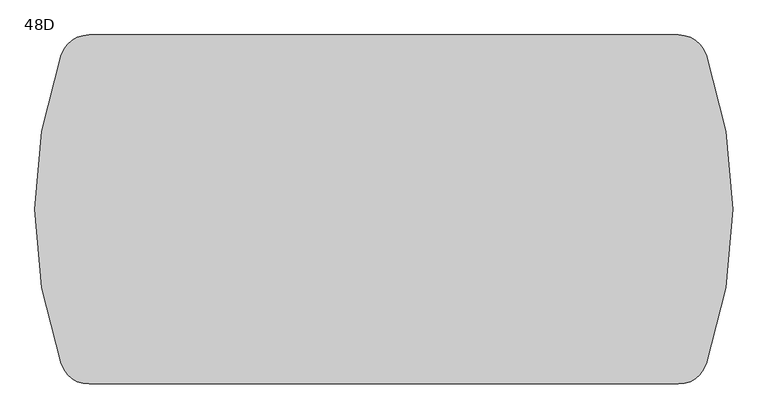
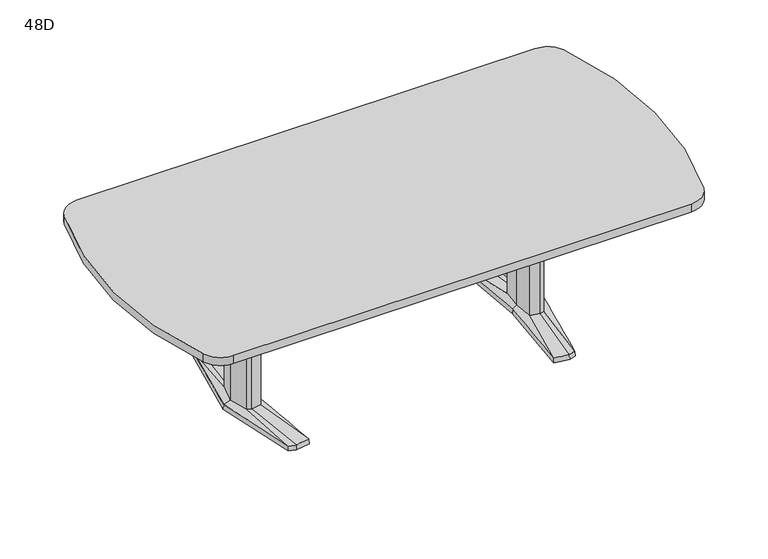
"""IFC4 building model written with IfcOpenShell, lengths in millimetres: furniture geometry, Coalesse_AM_Table_Conference_ETable2_SoftRadiused_96in_AluminiumBase : 48D."""

from ifc_helpers import new_model, si_unit, point, frame, frame_2d, origin, place, context, project, spatial, polyline, circle_curve, trimmed, segment, composite_curve, outline, extrude, source, transform, mapped, element, save
from ifc_brep_helpers import plane_surface, spline_surface, advanced_brep


def furniture_48d_1f168789(model_context):
    return source(origin(), model_context, "Body", "SolidModel", [
        advanced_brep(
        [(614.8503471, -379.3768856, 25.4), (644.5756636, -371.5332654, 25.4), (668.2327243, -89.293702, 36.5125), (648.9795254, -94.605478, 36.5125), (606.0521001, -87.0529327, 36.5125), (551.7612538, -368.5071562, 25.4), (597.9364207, 0.0, 36.5125), (579.8389754, 0.3970149, 25.4), (606.0521001, 87.0529327, 36.5125), (551.7615002, 368.5172593, 25.4), (648.9795254, 94.605478, 36.5125), (614.8502233, 379.3769183, 25.4), (668.2327243, 89.293702, 36.5125), (644.7535458, 371.4863276, 25.4), (692.1595251, 0.0, 36.5125), (721.4851663, 0.0003516, 25.4), (578.2468742, 0.3968871, 3.175), (550.06875, 369.8367279, 3.175), (614.9213004, 381.0, 3.175), (646.1093245, 372.7704151, 3.175), (723.10625, 0.0, 3.175), (645.9309817, -372.8174744, 3.175), (614.9213004, -381.0, 3.175), (550.06875, -369.8264415, 3.175), (649.5979264, 107.6121478, 3.175), (594.3065451, 97.8843184, 3.175), (585.1810887, 0.0, 3.175), (594.3065451, -97.8843184, 3.175), (649.5979264, -107.6121478, 3.175), (678.6183473, -99.6056872, 3.175), (705.3083085, 0.0, 3.175), (678.6183473, 99.6056872, 3.175), (613.4286812, 346.9152841, 3.175), (557.7811371, 337.3364985, 3.175), (560.1889918, 324.8641942, 3.175), (612.8600644, 333.9306305, 3.175), (648.6725609, 324.4807859, 3.175), (647.5544526, 337.9105158, 3.175), (613.4286812, -346.9152841, 3.175), (647.5544526, -337.9105158, 3.175), (648.6725609, -324.4807859, 3.175), (612.8600644, -333.9306305, 3.175), (560.1889918, -324.8641942, 3.175), (557.7811371, -337.3364985, 3.175), (649.5979264, 107.6121478, 0.0), (678.6183473, 99.6056872, 0.0), (705.3083085, 0.0, 0.0), (678.6183473, -99.6056872, 0.0), (649.5979264, -107.6121478, 0.0), (594.3065451, -97.8843184, 0.0), (585.1810887, 0.0, 0.0), (594.3065451, 97.8843184, 0.0), (613.4286812, 346.9152841, 0.0), (647.5544526, 337.9105158, 0.0), (648.6725609, 324.4807859, 0.0), (612.8600644, 333.9306305, 0.0), (560.1889918, 324.8641942, 0.0), (557.7811371, 337.3364985, 0.0), (613.4286812, -346.9152841, 0.0), (557.7811371, -337.3364985, 0.0), (560.1889918, -324.8641942, 0.0), (612.8600644, -333.9306305, 0.0), (648.6725609, -324.4807859, 0.0), (647.5544526, -337.9105158, 0.0), (668.2327243, 89.293702, 698.5), (648.9795254, 94.605478, 698.5), (606.0521001, 87.0529327, 698.5), (597.9364207, 0.0, 698.5), (606.0521001, -87.0529327, 698.5), (648.9795254, -94.605478, 698.5), (668.2327243, -89.293702, 698.5), (692.1595251, 0.0, 698.5)],
        [
            (0, 1),
            (1, 2),
            (2, 3),
            (3, 0),
            (3, 4),
            (4, 5),
            (5, 0),
            (4, 6),
            (6, 7),
            (7, 5),
            (6, 8),
            (8, 9),
            (9, 7),
            (8, 10),
            (10, 11),
            (11, 9),
            (10, 12),
            (12, 13),
            (13, 11),
            (12, 14),
            (14, 15),
            (15, 13),
            (1, 15),
            (14, 2),
            (16, 17),
            (17, 18),
            (18, 19),
            (19, 20),
            (20, 21),
            (21, 22),
            (22, 23),
            (23, 16),
            (24, 25),
            (25, 26),
            (26, 27),
            (27, 28),
            (28, 29),
            (29, 30),
            (30, 31),
            (31, 24),
            (32, 33),
            (33, 34),
            (34, 35),
            (35, 36),
            (36, 37),
            (37, 32),
            (38, 39),
            (39, 40),
            (40, 41),
            (41, 42),
            (42, 43),
            (43, 38),
            (16, 7),
            (9, 17),
            (11, 18),
            (13, 19),
            (15, 20),
            (1, 21),
            (0, 22),
            (5, 23),
            (44, 45),
            (45, 46),
            (46, 47),
            (47, 48),
            (48, 49),
            (49, 50),
            (50, 51),
            (51, 44),
            (52, 53),
            (53, 54),
            (54, 55),
            (55, 56),
            (56, 57),
            (57, 52),
            (58, 59),
            (59, 60),
            (60, 61),
            (61, 62),
            (62, 63),
            (63, 58),
            (44, 24),
            (31, 45),
            (30, 46),
            (29, 47),
            (28, 48),
            (27, 49),
            (26, 50),
            (25, 51),
            (52, 32),
            (37, 53),
            (36, 54),
            (35, 55),
            (34, 56),
            (33, 57),
            (58, 38),
            (43, 59),
            (42, 60),
            (41, 61),
            (40, 62),
            (39, 63),
            (64, 65),
            (65, 66),
            (66, 67),
            (67, 68),
            (68, 69),
            (69, 70),
            (70, 71),
            (71, 64),
            (71, 14),
            (12, 64),
            (70, 2),
            (69, 3),
            (68, 4),
            (67, 6),
            (66, 8),
            (65, 10),
        ],
        [
            spline_surface(1, 1, [[(644.5756636, -371.5332654, 25.4), (614.8503471, -379.3768856, 25.4)], [(668.2327243, -89.293702, 36.5125), (648.9795254, -94.605478, 36.5125)]], [2, 2], [2, 2], [0.0, 1.0], [0.0, 1.0]),
            spline_surface(1, 1, [[(614.8503471, -379.3768856, 25.4), (551.7612538, -368.5071562, 25.4)], [(648.9795254, -94.605478, 36.5125), (606.0521001, -87.0529327, 36.5125)]], [2, 2], [2, 2], [0.0, 1.0], [0.0, 1.0]),
            spline_surface(1, 1, [[(551.7612538, -368.5071562, 25.4), (579.8389754, 0.3970149, 25.4)], [(606.0521001, -87.0529327, 36.5125), (597.9364207, 0.0, 36.5125)]], [2, 2], [2, 2], [0.0, 1.0], [0.0, 1.0]),
            spline_surface(1, 1, [[(579.8389754, 0.3970149, 25.4), (551.7615002, 368.5172593, 25.4)], [(597.9364207, 0.0, 36.5125), (606.0521001, 87.0529327, 36.5125)]], [2, 2], [2, 2], [0.0, 1.0], [0.0, 1.0]),
            spline_surface(1, 1, [[(551.7615002, 368.5172593, 25.4), (614.8502233, 379.3769183, 25.4)], [(606.0521001, 87.0529327, 36.5125), (648.9795254, 94.605478, 36.5125)]], [2, 2], [2, 2], [0.0, 1.0], [0.0, 1.0]),
            spline_surface(1, 1, [[(614.8502233, 379.3769183, 25.4), (644.7535458, 371.4863276, 25.4)], [(648.9795254, 94.605478, 36.5125), (668.2327243, 89.293702, 36.5125)]], [2, 2], [2, 2], [0.0, 1.0], [0.0, 1.0]),
            spline_surface(1, 1, [[(644.7535458, 371.4863276, 25.4), (721.4851663, 0.0003516, 25.4)], [(668.2327243, 89.293702, 36.5125), (692.1595251, 0.0, 36.5125)]], [2, 2], [2, 2], [0.0, 1.0], [0.0, 1.0]),
            spline_surface(1, 1, [[(721.4851663, 0.0003516, 25.4), (644.5756636, -371.5332654, 25.4)], [(692.1595251, 0.0, 36.5125), (668.2327243, -89.293702, 36.5125)]], [2, 2], [2, 2], [0.0, 1.0], [0.0, 1.0]),
            plane_surface(frame((615.4216914, 0.0450143, 3.175), z_axis=(0.0, 0.0, -1.0), x_axis=(-0.9669048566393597, -0.2551372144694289, 0.0))),
            plane_surface(frame((564.1578121, 185.1168075, 3.175), z_axis=(-0.9945699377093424, -0.07585840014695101, 0.0712470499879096), x_axis=(-0.07605167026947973, 0.9971038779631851, 0.0))),
            plane_surface(frame((582.4950252, 375.418364, 3.175), z_axis=(-0.1692071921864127, 0.9830019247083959, 0.07124704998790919), x_axis=(0.985506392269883, 0.16963829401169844, 0.0))),
            plane_surface(frame((630.5153124, 376.8852076, 3.175), z_axis=(0.2544888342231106, 0.9644476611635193, 0.07124704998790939), x_axis=(0.9669048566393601, -0.25513721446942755, 0.0))),
            plane_surface(frame((684.6077872, 186.3852076, 3.175), z_axis=(0.9768383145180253, 0.2017690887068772, 0.07124704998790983), x_axis=(0.20228315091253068, -0.9793270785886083, 0.0))),
            plane_surface(frame((684.5186158, -186.4087372, 3.175), z_axis=(0.9767507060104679, -0.20219276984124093, 0.07124704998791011), x_axis=(-0.2027079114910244, -0.9792392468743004, 0.0))),
            plane_surface(frame((630.426141, -376.9087372, 3.175), z_axis=(0.2544888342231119, -0.9644476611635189, 0.0712470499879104), x_axis=(-0.9669048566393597, -0.2551372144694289, 0.0))),
            plane_surface(frame((582.4950252, -375.4132207, 3.175), z_axis=(-0.16935861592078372, -0.982975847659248, 0.07124704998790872), x_axis=(-0.9854802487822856, 0.16979010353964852, 0.0))),
            plane_surface(frame((564.1578121, -184.7147772, 3.175), z_axis=(-0.9945820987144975, 0.07569878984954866, 0.07124704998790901), x_axis=(0.07589165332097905, 0.9971160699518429, 0.0))),
            plane_surface(frame((652.3571479, 106.8509046, 0.0), z_axis=(0.0, 0.0, -1.0000000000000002), x_axis=(-0.9639855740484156, 0.26595453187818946, 0.0))),
            plane_surface(frame((649.5979264, 107.6121478, 3.175), z_axis=(0.26595453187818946, 0.9639855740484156, 0.0), x_axis=(0.0, 0.0, -1.0))),
            plane_surface(frame((678.6183473, 99.6056872, 3.175), z_axis=(0.9659241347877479, 0.2588253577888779, 0.0), x_axis=(0.0, 0.0, -1.0))),
            plane_surface(frame((705.3083085, 0.0, 3.175), z_axis=(0.9659241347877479, -0.2588253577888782, 0.0), x_axis=(0.0, 0.0, -1.0))),
            plane_surface(frame((678.6183473, -99.6056872, 3.175), z_axis=(0.26595453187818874, -0.9639855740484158, 0.0), x_axis=(0.0, 0.0, -1.0))),
            plane_surface(frame((649.5979264, -107.6121478, 3.175), z_axis=(-0.17327617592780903, -0.9848732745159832, 0.0), x_axis=(0.0, 0.0, -1.0))),
            plane_surface(frame((594.3065451, -97.8843184, 3.175), z_axis=(-0.9956824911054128, -0.0928244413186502, 0.0), x_axis=(0.0, 0.0, -1.0))),
            plane_surface(frame((585.1810887, 0.0, 3.175), z_axis=(-0.9956824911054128, 0.09282444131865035, 0.0), x_axis=(0.0, 0.0, -1.0))),
            plane_surface(frame((594.3065451, 97.8843184, 3.175), z_axis=(-0.17327617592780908, 0.984873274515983, 0.0), x_axis=(0.0, 0.0, -1.0))),
            plane_surface(frame((613.4286812, 346.9152841, 3.175), z_axis=(0.25513721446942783, 0.9669048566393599, 0.0), x_axis=(0.0, 0.0, -1.0))),
            plane_surface(frame((647.5544526, 337.9105158, 3.175), z_axis=(0.9965521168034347, 0.0829691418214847, 0.0), x_axis=(0.0, 0.0, -1.0))),
            plane_surface(frame((648.6725609, 324.4807859, 3.175), z_axis=(-0.25513721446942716, -0.9669048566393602, 0.0), x_axis=(0.0, 0.0, -1.0))),
            plane_surface(frame((612.8600644, 333.9306305, 3.175), z_axis=(0.16963829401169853, -0.985506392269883, 0.0), x_axis=(0.0, 0.0, -1.0))),
            plane_surface(frame((560.1889918, 324.8641942, 3.175), z_axis=(-0.9818699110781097, -0.18955600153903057, 0.0), x_axis=(0.0, 0.0, -1.0))),
            plane_surface(frame((557.7811371, 337.3364985, 3.175), z_axis=(-0.16963829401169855, 0.9855063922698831, 0.0), x_axis=(0.0, 0.0, -1.0))),
            plane_surface(frame((613.4286812, -346.9152841, 3.175), z_axis=(-0.1696382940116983, -0.9855063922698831, 0.0), x_axis=(0.0, 0.0, -1.0))),
            plane_surface(frame((557.7811371, -337.3364985, 3.175), z_axis=(-0.9818699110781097, 0.18955600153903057, 0.0), x_axis=(0.0, 0.0, -1.0))),
            plane_surface(frame((560.1889918, -324.8641942, 3.175), z_axis=(0.16963829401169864, 0.985506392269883, 0.0), x_axis=(0.0, 0.0, -1.0))),
            plane_surface(frame((612.8600644, -333.9306305, 3.175), z_axis=(-0.2551372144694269, 0.9669048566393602, 0.0), x_axis=(0.0, 0.0, -1.0))),
            plane_surface(frame((648.6725609, -324.4807859, 3.175), z_axis=(0.9965521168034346, -0.0829691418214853, 0.0), x_axis=(0.0, 0.0, -1.0))),
            plane_surface(frame((647.5544526, -337.9105158, 3.175), z_axis=(0.2551372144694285, -0.9669048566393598, 0.0), x_axis=(0.0, 0.0, -1.0))),
            plane_surface(frame((692.1595251, 0.0, 698.5), z_axis=(0.0, 0.0, 1.0), x_axis=(0.25882535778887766, -0.965924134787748, 0.0))),
            plane_surface(frame((668.2327243, 89.293702, 698.5), z_axis=(0.965924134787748, 0.25882535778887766, 0.0), x_axis=(0.0, 0.0, -1.0))),
            plane_surface(frame((692.1595251, 0.0, 698.5), z_axis=(0.965924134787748, -0.2588253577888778, 0.0), x_axis=(0.0, 0.0, -1.0))),
            plane_surface(frame((668.2327243, -89.293702, 698.5), z_axis=(0.2659545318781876, -0.963985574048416, 0.0), x_axis=(0.0, 0.0, -1.0))),
            plane_surface(frame((648.9795254, -94.605478, 698.5), z_axis=(-0.1732761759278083, -0.9848732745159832, 0.0), x_axis=(0.0, 0.0, -1.0))),
            plane_surface(frame((606.0521001, -87.0529327, 698.5), z_axis=(-0.9956824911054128, -0.0928244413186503, 0.0), x_axis=(0.0, 0.0, -1.0))),
            plane_surface(frame((597.9364207, 0.0, 698.5), z_axis=(-0.9956824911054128, 0.09282444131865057, 0.0), x_axis=(0.0, 0.0, -1.0))),
            plane_surface(frame((606.0521001, 87.0529327, 698.5), z_axis=(-0.17327617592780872, 0.9848732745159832, 0.0), x_axis=(0.0, 0.0, -1.0))),
            plane_surface(frame((648.9795254, 94.605478, 698.5), z_axis=(0.26595453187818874, 0.9639855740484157, 0.0), x_axis=(0.0, 0.0, -1.0))),
        ],
        [
            (0, [[1, 2, 3, 4]]),
            (1, [[5, 6, 7, -4]]),
            (2, [[8, 9, 10, -6]]),
            (3, [[11, 12, 13, -9]]),
            (4, [[14, 15, 16, -12]]),
            (5, [[17, 18, 19, -15]]),
            (6, [[20, 21, 22, -18]]),
            (7, [[23, -21, 24, -2]]),
            (8, [[25, 26, 27, 28, 29, 30, 31, 32], [33, 34, 35, 36, 37, 38, 39, 40], [41, 42, 43, 44, 45, 46], [47, 48, 49, 50, 51, 52]]),
            (9, [[53, -13, 54, -25]]),
            (10, [[-54, -16, 55, -26]]),
            (11, [[-55, -19, 56, -27]]),
            (12, [[-56, -22, 57, -28]]),
            (13, [[-57, -23, 58, -29]]),
            (14, [[-58, -1, 59, -30]]),
            (15, [[-59, -7, 60, -31]]),
            (16, [[-60, -10, -53, -32]]),
            (17, [[61, 62, 63, 64, 65, 66, 67, 68]]),
            (17, [[69, 70, 71, 72, 73, 74]]),
            (17, [[75, 76, 77, 78, 79, 80]]),
            (18, [[81, -40, 82, -61]]),
            (19, [[-82, -39, 83, -62]]),
            (20, [[-83, -38, 84, -63]]),
            (21, [[-84, -37, 85, -64]]),
            (22, [[-85, -36, 86, -65]]),
            (23, [[-86, -35, 87, -66]]),
            (24, [[-87, -34, 88, -67]]),
            (25, [[-88, -33, -81, -68]]),
            (26, [[89, -46, 90, -69]]),
            (27, [[-90, -45, 91, -70]]),
            (28, [[-91, -44, 92, -71]]),
            (29, [[-92, -43, 93, -72]]),
            (30, [[-93, -42, 94, -73]]),
            (31, [[-94, -41, -89, -74]]),
            (32, [[95, -52, 96, -75]]),
            (33, [[-96, -51, 97, -76]]),
            (34, [[-97, -50, 98, -77]]),
            (35, [[-98, -49, 99, -78]]),
            (36, [[-99, -48, 100, -79]]),
            (37, [[-100, -47, -95, -80]]),
            (38, [[101, 102, 103, 104, 105, 106, 107, 108]]),
            (39, [[109, -20, 110, -108]]),
            (40, [[111, -24, -109, -107]]),
            (41, [[112, -3, -111, -106]]),
            (42, [[113, -5, -112, -105]]),
            (43, [[114, -8, -113, -104]]),
            (44, [[115, -11, -114, -103]]),
            (45, [[116, -14, -115, -102]]),
            (46, [[-110, -17, -116, -101]]),
        ],
    ),
        advanced_brep(
        [(-614.8503471, -379.3768856, 25.4), (-648.9795254, -94.605478, 36.5125), (-668.2327243, -89.293702, 36.5125), (-644.5756636, -371.5332654, 25.4), (-551.7612538, -368.5071562, 25.4), (-606.0521001, -87.0529327, 36.5125), (-579.8389754, 0.3970149, 25.4), (-597.9364207, 0.0, 36.5125), (-551.7615002, 368.5172593, 25.4), (-606.0521001, 87.0529327, 36.5125), (-614.8502233, 379.3769183, 25.4), (-648.9795254, 94.605478, 36.5125), (-644.7535458, 371.4863276, 25.4), (-668.2327243, 89.293702, 36.5125), (-721.4851663, 0.0003516, 25.4), (-692.1595251, 0.0, 36.5125), (-578.2468742, 0.3968871, 3.175), (-550.06875, -369.8264415, 3.175), (-614.9213004, -381.0, 3.175), (-645.9309817, -372.8174744, 3.175), (-723.10625, 0.0, 3.175), (-646.1093245, 372.7704151, 3.175), (-614.9213004, 381.0, 3.175), (-550.06875, 369.8367279, 3.175), (-649.5979264, 107.6121478, 3.175), (-678.6183473, 99.6056872, 3.175), (-705.3083085, 0.0, 3.175), (-678.6183473, -99.6056872, 3.175), (-649.5979264, -107.6121478, 3.175), (-594.3065451, -97.8843184, 3.175), (-585.1810887, 0.0, 3.175), (-594.3065451, 97.8843184, 3.175), (-613.4286812, 346.9152841, 3.175), (-647.5544526, 337.9105158, 3.175), (-648.6725609, 324.4807859, 3.175), (-612.8600644, 333.9306305, 3.175), (-560.1889918, 324.8641942, 3.175), (-557.7811371, 337.3364985, 3.175), (-613.4286812, -346.9152841, 3.175), (-557.7811371, -337.3364985, 3.175), (-560.1889918, -324.8641942, 3.175), (-612.8600644, -333.9306305, 3.175), (-648.6725609, -324.4807859, 3.175), (-647.5544526, -337.9105158, 3.175), (-649.5979264, 107.6121478, 0.0), (-594.3065451, 97.8843184, 0.0), (-585.1810887, 0.0, 0.0), (-594.3065451, -97.8843184, 0.0), (-649.5979264, -107.6121478, 0.0), (-678.6183473, -99.6056872, 0.0), (-705.3083085, 0.0, 0.0), (-678.6183473, 99.6056872, 0.0), (-613.4286812, 346.9152841, 0.0), (-557.7811371, 337.3364985, 0.0), (-560.1889918, 324.8641942, 0.0), (-612.8600644, 333.9306305, 0.0), (-648.6725609, 324.4807859, 0.0), (-647.5544526, 337.9105158, 0.0), (-613.4286812, -346.9152841, 0.0), (-647.5544526, -337.9105158, 0.0), (-648.6725609, -324.4807859, 0.0), (-612.8600644, -333.9306305, 0.0), (-560.1889918, -324.8641942, 0.0), (-557.7811371, -337.3364985, 0.0), (-668.2327243, 89.293702, 698.5), (-692.1595251, 0.0, 698.5), (-668.2327243, -89.293702, 698.5), (-648.9795254, -94.605478, 698.5), (-606.0521001, -87.0529327, 698.5), (-597.9364207, 0.0, 698.5), (-606.0521001, 87.0529327, 698.5), (-648.9795254, 94.605478, 698.5)],
        [
            (0, 1),
            (1, 2),
            (2, 3),
            (3, 0),
            (0, 4),
            (4, 5),
            (5, 1),
            (4, 6),
            (6, 7),
            (7, 5),
            (6, 8),
            (8, 9),
            (9, 7),
            (8, 10),
            (10, 11),
            (11, 9),
            (10, 12),
            (12, 13),
            (13, 11),
            (12, 14),
            (14, 15),
            (15, 13),
            (2, 15),
            (14, 3),
            (16, 17),
            (17, 18),
            (18, 19),
            (19, 20),
            (20, 21),
            (21, 22),
            (22, 23),
            (23, 16),
            (24, 25),
            (25, 26),
            (26, 27),
            (27, 28),
            (28, 29),
            (29, 30),
            (30, 31),
            (31, 24),
            (32, 33),
            (33, 34),
            (34, 35),
            (35, 36),
            (36, 37),
            (37, 32),
            (38, 39),
            (39, 40),
            (40, 41),
            (41, 42),
            (42, 43),
            (43, 38),
            (23, 8),
            (6, 16),
            (22, 10),
            (21, 12),
            (20, 14),
            (19, 3),
            (18, 0),
            (17, 4),
            (44, 45),
            (45, 46),
            (46, 47),
            (47, 48),
            (48, 49),
            (49, 50),
            (50, 51),
            (51, 44),
            (52, 53),
            (53, 54),
            (54, 55),
            (55, 56),
            (56, 57),
            (57, 52),
            (58, 59),
            (59, 60),
            (60, 61),
            (61, 62),
            (62, 63),
            (63, 58),
            (51, 25),
            (24, 44),
            (50, 26),
            (49, 27),
            (48, 28),
            (47, 29),
            (46, 30),
            (45, 31),
            (57, 33),
            (32, 52),
            (56, 34),
            (55, 35),
            (54, 36),
            (53, 37),
            (63, 39),
            (38, 58),
            (62, 40),
            (61, 41),
            (60, 42),
            (59, 43),
            (64, 65),
            (65, 66),
            (66, 67),
            (67, 68),
            (68, 69),
            (69, 70),
            (70, 71),
            (71, 64),
            (64, 13),
            (15, 65),
            (2, 66),
            (1, 67),
            (5, 68),
            (7, 69),
            (9, 70),
            (11, 71),
        ],
        [
            spline_surface(1, 1, [[(-644.5756636, -371.5332654, 25.4), (-668.2327243, -89.293702, 36.5125)], [(-614.8503471, -379.3768856, 25.4), (-648.9795254, -94.605478, 36.5125)]], [2, 2], [2, 2], [0.0, 1.0], [0.0, 1.0]),
            spline_surface(1, 1, [[(-614.8503471, -379.3768856, 25.4), (-648.9795254, -94.605478, 36.5125)], [(-551.7612538, -368.5071562, 25.4), (-606.0521001, -87.0529327, 36.5125)]], [2, 2], [2, 2], [0.0, 1.0], [0.0, 1.0]),
            spline_surface(1, 1, [[(-551.7612538, -368.5071562, 25.4), (-606.0521001, -87.0529327, 36.5125)], [(-579.8389754, 0.3970149, 25.4), (-597.9364207, 0.0, 36.5125)]], [2, 2], [2, 2], [0.0, 1.0], [0.0, 1.0]),
            spline_surface(1, 1, [[(-579.8389754, 0.3970149, 25.4), (-597.9364207, 0.0, 36.5125)], [(-551.7615002, 368.5172593, 25.4), (-606.0521001, 87.0529327, 36.5125)]], [2, 2], [2, 2], [0.0, 1.0], [0.0, 1.0]),
            spline_surface(1, 1, [[(-551.7615002, 368.5172593, 25.4), (-606.0521001, 87.0529327, 36.5125)], [(-614.8502233, 379.3769183, 25.4), (-648.9795254, 94.605478, 36.5125)]], [2, 2], [2, 2], [0.0, 1.0], [0.0, 1.0]),
            spline_surface(1, 1, [[(-614.8502233, 379.3769183, 25.4), (-648.9795254, 94.605478, 36.5125)], [(-644.7535458, 371.4863276, 25.4), (-668.2327243, 89.293702, 36.5125)]], [2, 2], [2, 2], [0.0, 1.0], [0.0, 1.0]),
            spline_surface(1, 1, [[(-644.7535458, 371.4863276, 25.4), (-668.2327243, 89.293702, 36.5125)], [(-721.4851663, 0.0003516, 25.4), (-692.1595251, 0.0, 36.5125)]], [2, 2], [2, 2], [0.0, 1.0], [0.0, 1.0]),
            spline_surface(1, 1, [[(-721.4851663, 0.0003516, 25.4), (-692.1595251, 0.0, 36.5125)], [(-644.5756636, -371.5332654, 25.4), (-668.2327243, -89.293702, 36.5125)]], [2, 2], [2, 2], [0.0, 1.0], [0.0, 1.0]),
            plane_surface(frame((-615.4216914, 0.0450143, 3.175), z_axis=(0.0, 0.0, -1.0), x_axis=(0.9669048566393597, -0.2551372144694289, 0.0))),
            plane_surface(frame((-564.1578121, 185.1168075, 3.175), z_axis=(0.9945699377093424, -0.07585840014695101, 0.0712470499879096), x_axis=(0.07605167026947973, 0.9971038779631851, 0.0))),
            plane_surface(frame((-582.4950252, 375.418364, 3.175), z_axis=(0.1692071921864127, 0.9830019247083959, 0.07124704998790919), x_axis=(-0.985506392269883, 0.16963829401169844, 0.0))),
            plane_surface(frame((-630.5153124, 376.8852076, 3.175), z_axis=(-0.2544888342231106, 0.9644476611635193, 0.07124704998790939), x_axis=(-0.9669048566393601, -0.25513721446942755, 0.0))),
            plane_surface(frame((-684.6077872, 186.3852076, 3.175), z_axis=(-0.9768383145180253, 0.2017690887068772, 0.07124704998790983), x_axis=(-0.20228315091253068, -0.9793270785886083, 0.0))),
            plane_surface(frame((-684.5186158, -186.4087372, 3.175), z_axis=(-0.9767507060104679, -0.20219276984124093, 0.07124704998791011), x_axis=(0.2027079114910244, -0.9792392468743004, 0.0))),
            plane_surface(frame((-630.426141, -376.9087372, 3.175), z_axis=(-0.2544888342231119, -0.9644476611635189, 0.0712470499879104), x_axis=(0.9669048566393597, -0.2551372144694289, 0.0))),
            plane_surface(frame((-582.4950252, -375.4132207, 3.175), z_axis=(0.16935861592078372, -0.982975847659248, 0.07124704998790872), x_axis=(0.9854802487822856, 0.16979010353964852, 0.0))),
            plane_surface(frame((-564.1578121, -184.7147772, 3.175), z_axis=(0.9945820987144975, 0.07569878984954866, 0.07124704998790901), x_axis=(-0.07589165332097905, 0.9971160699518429, 0.0))),
            plane_surface(frame((-652.3571479, 106.8509046, 0.0), z_axis=(0.0, 0.0, -1.0000000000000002), x_axis=(0.9639855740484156, 0.26595453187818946, 0.0))),
            plane_surface(frame((-649.5979264, 107.6121478, 3.175), z_axis=(-0.26595453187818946, 0.9639855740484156, 0.0), x_axis=(0.0, 0.0, -1.0))),
            plane_surface(frame((-678.6183473, 99.6056872, 3.175), z_axis=(-0.9659241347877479, 0.2588253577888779, 0.0), x_axis=(0.0, 0.0, -1.0))),
            plane_surface(frame((-705.3083085, 0.0, 3.175), z_axis=(-0.9659241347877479, -0.2588253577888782, 0.0), x_axis=(0.0, 0.0, -1.0))),
            plane_surface(frame((-678.6183473, -99.6056872, 3.175), z_axis=(-0.26595453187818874, -0.9639855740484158, 0.0), x_axis=(0.0, 0.0, -1.0))),
            plane_surface(frame((-649.5979264, -107.6121478, 3.175), z_axis=(0.17327617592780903, -0.9848732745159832, 0.0), x_axis=(0.0, 0.0, -1.0))),
            plane_surface(frame((-594.3065451, -97.8843184, 3.175), z_axis=(0.9956824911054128, -0.0928244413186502, 0.0), x_axis=(0.0, 0.0, -1.0))),
            plane_surface(frame((-585.1810887, 0.0, 3.175), z_axis=(0.9956824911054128, 0.09282444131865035, 0.0), x_axis=(0.0, 0.0, -1.0))),
            plane_surface(frame((-594.3065451, 97.8843184, 3.175), z_axis=(0.17327617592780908, 0.984873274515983, 0.0), x_axis=(0.0, 0.0, -1.0))),
            plane_surface(frame((-613.4286812, 346.9152841, 3.175), z_axis=(-0.25513721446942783, 0.9669048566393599, 0.0), x_axis=(0.0, 0.0, -1.0))),
            plane_surface(frame((-647.5544526, 337.9105158, 3.175), z_axis=(-0.9965521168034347, 0.0829691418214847, 0.0), x_axis=(0.0, 0.0, -1.0))),
            plane_surface(frame((-648.6725609, 324.4807859, 3.175), z_axis=(0.25513721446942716, -0.9669048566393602, 0.0), x_axis=(0.0, 0.0, -1.0))),
            plane_surface(frame((-612.8600644, 333.9306305, 3.175), z_axis=(-0.16963829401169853, -0.985506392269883, 0.0), x_axis=(0.0, 0.0, -1.0))),
            plane_surface(frame((-560.1889918, 324.8641942, 3.175), z_axis=(0.9818699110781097, -0.18955600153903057, 0.0), x_axis=(0.0, 0.0, -1.0))),
            plane_surface(frame((-557.7811371, 337.3364985, 3.175), z_axis=(0.16963829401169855, 0.9855063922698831, 0.0), x_axis=(0.0, 0.0, -1.0))),
            plane_surface(frame((-613.4286812, -346.9152841, 3.175), z_axis=(0.1696382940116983, -0.9855063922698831, 0.0), x_axis=(0.0, 0.0, -1.0))),
            plane_surface(frame((-557.7811371, -337.3364985, 3.175), z_axis=(0.9818699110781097, 0.18955600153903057, 0.0), x_axis=(0.0, 0.0, -1.0))),
            plane_surface(frame((-560.1889918, -324.8641942, 3.175), z_axis=(-0.16963829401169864, 0.985506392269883, 0.0), x_axis=(0.0, 0.0, -1.0))),
            plane_surface(frame((-612.8600644, -333.9306305, 3.175), z_axis=(0.2551372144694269, 0.9669048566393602, 0.0), x_axis=(0.0, 0.0, -1.0))),
            plane_surface(frame((-648.6725609, -324.4807859, 3.175), z_axis=(-0.9965521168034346, -0.0829691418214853, 0.0), x_axis=(0.0, 0.0, -1.0))),
            plane_surface(frame((-647.5544526, -337.9105158, 3.175), z_axis=(-0.2551372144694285, -0.9669048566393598, 0.0), x_axis=(0.0, 0.0, -1.0))),
            plane_surface(frame((-692.1595251, 0.0, 698.5), z_axis=(0.0, 0.0, 1.0), x_axis=(-0.25882535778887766, -0.965924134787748, 0.0))),
            plane_surface(frame((-668.2327243, 89.293702, 698.5), z_axis=(-0.965924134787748, 0.25882535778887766, 0.0), x_axis=(0.0, 0.0, -1.0))),
            plane_surface(frame((-692.1595251, 0.0, 698.5), z_axis=(-0.965924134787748, -0.2588253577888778, 0.0), x_axis=(0.0, 0.0, -1.0))),
            plane_surface(frame((-668.2327243, -89.293702, 698.5), z_axis=(-0.2659545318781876, -0.963985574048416, 0.0), x_axis=(0.0, 0.0, -1.0))),
            plane_surface(frame((-648.9795254, -94.605478, 698.5), z_axis=(0.1732761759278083, -0.9848732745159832, 0.0), x_axis=(0.0, 0.0, -1.0))),
            plane_surface(frame((-606.0521001, -87.0529327, 698.5), z_axis=(0.9956824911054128, -0.0928244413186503, 0.0), x_axis=(0.0, 0.0, -1.0))),
            plane_surface(frame((-597.9364207, 0.0, 698.5), z_axis=(0.9956824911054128, 0.09282444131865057, 0.0), x_axis=(0.0, 0.0, -1.0))),
            plane_surface(frame((-606.0521001, 87.0529327, 698.5), z_axis=(0.17327617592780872, 0.9848732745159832, 0.0), x_axis=(0.0, 0.0, -1.0))),
            plane_surface(frame((-648.9795254, 94.605478, 698.5), z_axis=(-0.26595453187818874, 0.9639855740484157, 0.0), x_axis=(0.0, 0.0, -1.0))),
        ],
        [
            (0, [[1, 2, 3, 4]]),
            (1, [[-1, 5, 6, 7]]),
            (2, [[-6, 8, 9, 10]]),
            (3, [[-9, 11, 12, 13]]),
            (4, [[-12, 14, 15, 16]]),
            (5, [[-15, 17, 18, 19]]),
            (6, [[-18, 20, 21, 22]]),
            (7, [[-3, 23, -21, 24]]),
            (8, [[25, 26, 27, 28, 29, 30, 31, 32], [33, 34, 35, 36, 37, 38, 39, 40], [41, 42, 43, 44, 45, 46], [47, 48, 49, 50, 51, 52]]),
            (9, [[-32, 53, -11, 54]]),
            (10, [[-31, 55, -14, -53]]),
            (11, [[-30, 56, -17, -55]]),
            (12, [[-29, 57, -20, -56]]),
            (13, [[-28, 58, -24, -57]]),
            (14, [[-27, 59, -4, -58]]),
            (15, [[-26, 60, -5, -59]]),
            (16, [[-25, -54, -8, -60]]),
            (17, [[61, 62, 63, 64, 65, 66, 67, 68]]),
            (17, [[69, 70, 71, 72, 73, 74]]),
            (17, [[75, 76, 77, 78, 79, 80]]),
            (18, [[-68, 81, -33, 82]]),
            (19, [[-67, 83, -34, -81]]),
            (20, [[-66, 84, -35, -83]]),
            (21, [[-65, 85, -36, -84]]),
            (22, [[-64, 86, -37, -85]]),
            (23, [[-63, 87, -38, -86]]),
            (24, [[-62, 88, -39, -87]]),
            (25, [[-61, -82, -40, -88]]),
            (26, [[-74, 89, -41, 90]]),
            (27, [[-73, 91, -42, -89]]),
            (28, [[-72, 92, -43, -91]]),
            (29, [[-71, 93, -44, -92]]),
            (30, [[-70, 94, -45, -93]]),
            (31, [[-69, -90, -46, -94]]),
            (32, [[-80, 95, -47, 96]]),
            (33, [[-79, 97, -48, -95]]),
            (34, [[-78, 98, -49, -97]]),
            (35, [[-77, 99, -50, -98]]),
            (36, [[-76, 100, -51, -99]]),
            (37, [[-75, -96, -52, -100]]),
            (38, [[101, 102, 103, 104, 105, 106, 107, 108]]),
            (39, [[-101, 109, -22, 110]]),
            (40, [[-102, -110, -23, 111]]),
            (41, [[-103, -111, -2, 112]]),
            (42, [[-104, -112, -7, 113]]),
            (43, [[-105, -113, -10, 114]]),
            (44, [[-106, -114, -13, 115]]),
            (45, [[-107, -115, -16, 116]]),
            (46, [[-108, -116, -19, -109]]),
        ],
    ),
        extrude(outline(polyline([(96.8375, 698.5), (103.1875, 698.5), (103.1875, 476.25), (-103.1875, 476.25), (-103.1875, 698.5), (-96.8375, 698.5), (-96.8375, 482.6), (96.8375, 482.6), (96.8375, 698.5)])), frame((-597.9364207, 0.0, 0.0), z_axis=(1.0, 0.0, 0.0), x_axis=(0.0, 1.0, 0.0)), (0.0, 0.0, 1.0), 1195.8728415),
        extrude(outline(composite_curve([segment(polyline([(-1125.8457112, -541.8652296), (-1126.6015465, -539.7273037)]), True, "CONTINUOUS"), segment(trimmed(circle_curve(frame_2d((400.05, 5.18e-05)), 1619.25), [point((-1126.6015465, -539.7273037))], [point((-1126.5956256, 539.7441544))], False, "CARTESIAN"), True, "CONTINUOUS"), segment(polyline([(-1126.5956256, 539.7441544), (-1125.8453442, 541.8662966)]), True, "CONTINUOUS"), segment(trimmed(circle_curve(frame_2d((-1030.0558148, 508.0)), 101.6), [point((-1125.8453442, 541.8662966))], [point((-1030.0558148, 609.6))], False, "CARTESIAN"), True, "CONTINUOUS"), segment(polyline([(-1030.0558148, 609.6), (1030.0557872, 609.6)]), True, "CONTINUOUS"), segment(trimmed(circle_curve(frame_2d((1030.0557872, 507.9999756)), 101.6000244), [point((1030.0557872, 609.6))], [point((1125.8457112, 541.8652296))], False, "CARTESIAN"), True, "CONTINUOUS"), segment(polyline([(1125.8457112, 541.8652296), (1126.6015465, 539.7273037)]), True, "CONTINUOUS"), segment(trimmed(circle_curve(frame_2d((-400.05, -5.18e-05)), 1619.25), [point((1126.6015465, 539.7273037))], [point((1126.5956256, -539.7441544))], False, "CARTESIAN"), True, "CONTINUOUS"), segment(polyline([(1126.5956256, -539.7441544), (1125.8453442, -541.8662966)]), True, "CONTINUOUS"), segment(trimmed(circle_curve(frame_2d((1030.0558148, -508.0)), 101.6), [point((1125.8453442, -541.8662966))], [point((1030.0558148, -609.6))], False, "CARTESIAN"), True, "CONTINUOUS"), segment(polyline([(1030.0558148, -609.6), (-1030.0557872, -609.6)]), True, "CONTINUOUS"), segment(trimmed(circle_curve(frame_2d((-1030.0557872, -507.9999756)), 101.6000244), [point((-1030.0557872, -609.6))], [point((-1125.8457112, -541.8652296))], False, "CARTESIAN"), True, "CONTINUOUS")], self_intersect=False)), frame((0.0, 0.0, 698.5), z_axis=(0.0, 0.0, 1.0), x_axis=(1.0, 0.0, 0.0)), (0.0, 0.0, 1.0), 38.1),
    ])


if __name__ == "__main__":
    model = new_model("IFC4")
    model_context = context("Model", 3, world=origin())
    ifc_project = project(units=[si_unit("LENGTHUNIT", "METRE", prefix="MILLI")], contexts=[model_context])
    site = spatial("IfcSite", under=ifc_project)
    building = spatial("IfcBuilding", under=site)
    placement = place(None, origin())
    furniture_48d_shape = furniture_48d_1f168789(model_context)
    element("IfcFurniture", 1, ObjectType="Coalesse_AM_Table_Conference_ETable2_SoftRadiused_96in_AluminiumBase : 48D", at=placement, inside=building, context=model_context, shape_type="MappedRepresentation", body=[
        mapped(furniture_48d_shape, transform((0.0, 0.0, 0.0), x_axis=(1.0, 0.0, 0.0), y_axis=(0.0, 1.0, 0.0), z_axis=(0.0, 0.0, 1.0))),
    ])
    save(model, "model.ifc")
